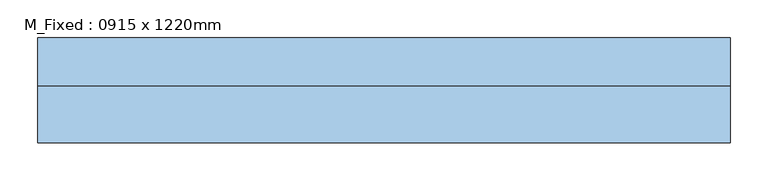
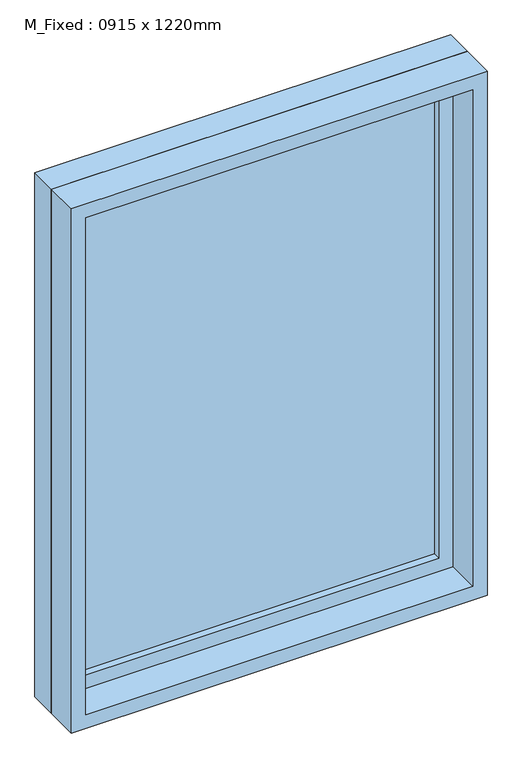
"""IFC4 building model written with IfcOpenShell, lengths in millimetres: window geometry, M_Fixed : 0915 x 1220mm."""

from ifc_helpers import new_model, si_unit, frame, origin, place, context, project, spatial, polyline, outline, extrude, source, transform, mapped, element, save


def m_fixed_0915_x_1220mm_bac45195(model_context):
    return source(origin(), model_context, "Body", "SweptSolid", [
        extrude(outline(polyline([(-394.5, 47.25), (394.5, 47.25), (394.5, 35.25), (-394.5, 35.25), (-394.5, 47.25)])), frame((0.0, 0.0, 978.0), z_axis=(0.0, 0.0, 1.0), x_axis=(1.0, 0.0, 0.0)), (0.0, 0.0, 1.0), 1094.0),
        extrude(outline(polyline([(2116.0, -438.5), (934.0, -438.5), (934.0, 438.5), (2116.0, 438.5), (2116.0, -438.5)]), holes=[polyline([(2072.0, -394.5), (2072.0, 394.5), (978.0, 394.5), (978.0, -394.5), (2072.0, -394.5)])]), frame((0.0, 19.25, 0.0), z_axis=(0.0, 1.0, 0.0), x_axis=(0.0, 0.0, 1.0)), (0.0, 0.0, 1.0), 44.0),
        extrude(outline(polyline([(2135.0, -457.5), (915.0, -457.5), (915.0, 457.5), (2135.0, 457.5), (2135.0, -457.5)]), holes=[polyline([(2116.0, -438.5), (2116.0, 438.5), (934.0, 438.5), (934.0, -438.5), (2116.0, -438.5)])]), frame((0.0, 19.25, 0.0), z_axis=(0.0, 1.0, 0.0), x_axis=(0.0, 0.0, 1.0)), (0.0, 0.0, 1.0), 63.0),
        extrude(outline(polyline([(2135.0, -457.5), (915.0, -457.5), (915.0, 457.5), (2135.0, 457.5), (2135.0, -457.5)]), holes=[polyline([(2103.0, -425.5), (2103.0, 425.5), (947.0, 425.5), (947.0, -425.5), (2103.0, -425.5)])]), frame((0.0, -56.25, 0.0), z_axis=(0.0, 1.0, 0.0), x_axis=(0.0, 0.0, 1.0)), (0.0, 0.0, 1.0), 75.5),
    ])


if __name__ == "__main__":
    model = new_model("IFC4")
    model_context = context("Model", 3, world=origin())
    ifc_project = project(units=[si_unit("LENGTHUNIT", "METRE", prefix="MILLI")], contexts=[model_context])
    site = spatial("IfcSite", under=ifc_project)
    building = spatial("IfcBuilding", under=site)
    placement = place(None, origin())
    m_fixed_0915_x_1220mm_shape = m_fixed_0915_x_1220mm_bac45195(model_context)
    element("IfcWindow", 1, ObjectType="M_Fixed : 0915 x 1220mm", at=placement, inside=building, context=model_context, shape_type="MappedRepresentation", body=[
        mapped(m_fixed_0915_x_1220mm_shape, transform((0.0, 0.0, 0.0), x_axis=(1.0, 0.0, 0.0), y_axis=(0.0, 1.0, 0.0), z_axis=(0.0, 0.0, 1.0))),
    ])
    save(model, "model.ifc")
